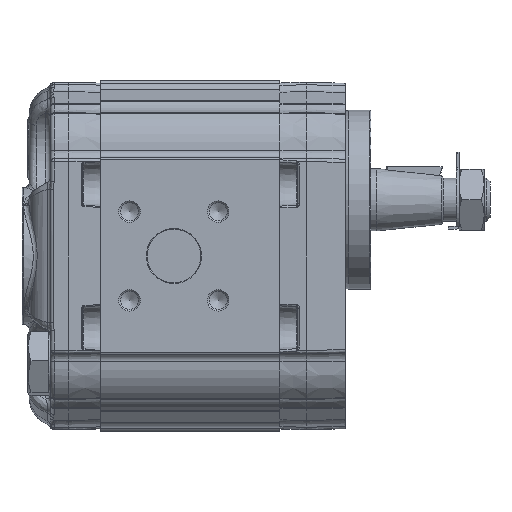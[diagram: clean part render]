
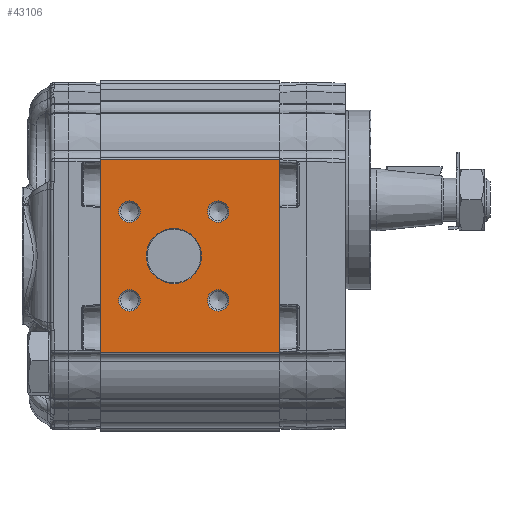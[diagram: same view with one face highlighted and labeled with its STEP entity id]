
A CAD part, left-side view. The second image highlights one B-rep face of the part: STEP entity #43106.
In plain terms, the highlighted planar face has unit normal (-1, 0, 0).
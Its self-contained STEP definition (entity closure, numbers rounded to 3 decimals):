
#2879=PLANE('',#46051);
#3980=LINE('',#70620,#5426);
#3981=LINE('',#70623,#5427);
#3982=LINE('',#70625,#5428);
#3983=LINE('',#70627,#5429);
#5426=VECTOR('',#52337,1000.);
#5427=VECTOR('',#52338,1000.);
#5428=VECTOR('',#52339,1000.);
#5429=VECTOR('',#52340,1000.);
#11421=ORIENTED_EDGE('',*,*,#17616,.T.);
#11422=ORIENTED_EDGE('',*,*,#17617,.T.);
#11423=ORIENTED_EDGE('',*,*,#17618,.T.);
#11424=ORIENTED_EDGE('',*,*,#17619,.T.);
#11425=ORIENTED_EDGE('',*,*,#17620,.T.);
#11426=ORIENTED_EDGE('',*,*,#17621,.F.);
#11427=ORIENTED_EDGE('',*,*,#17622,.F.);
#11428=ORIENTED_EDGE('',*,*,#17623,.T.);
#11429=ORIENTED_EDGE('',*,*,#17624,.T.);
#17616=EDGE_CURVE('',#21042,#21042,#23157,.F.);
#17617=EDGE_CURVE('',#21043,#21043,#23158,.F.);
#17618=EDGE_CURVE('',#21044,#21044,#23159,.F.);
#17619=EDGE_CURVE('',#21045,#21045,#23160,.F.);
#17620=EDGE_CURVE('',#21046,#21046,#23161,.F.);
#17621=EDGE_CURVE('',#21047,#21048,#3980,.T.);
#17622=EDGE_CURVE('',#21049,#21047,#3981,.T.);
#17623=EDGE_CURVE('',#21049,#21050,#3982,.T.);
#17624=EDGE_CURVE('',#21050,#21048,#3983,.T.);
#21042=VERTEX_POINT('',#70611);
#21043=VERTEX_POINT('',#70613);
#21044=VERTEX_POINT('',#70615);
#21045=VERTEX_POINT('',#70617);
#21046=VERTEX_POINT('',#70619);
#21047=VERTEX_POINT('',#70621);
#21048=VERTEX_POINT('',#70622);
#21049=VERTEX_POINT('',#70624);
#21050=VERTEX_POINT('',#70626);
#23157=CIRCLE('',#46052,7.7);
#23158=CIRCLE('',#46053,3.);
#23159=CIRCLE('',#46054,3.);
#23160=CIRCLE('',#46055,3.);
#23161=CIRCLE('',#46056,3.);
#24899=EDGE_LOOP('',(#11421));
#24900=EDGE_LOOP('',(#11422));
#24901=EDGE_LOOP('',(#11423));
#24902=EDGE_LOOP('',(#11424));
#24903=EDGE_LOOP('',(#11425));
#24904=EDGE_LOOP('',(#11426,#11427,#11428,#11429));
#27072=FACE_BOUND('',#24899,.T.);
#27073=FACE_BOUND('',#24900,.T.);
#27074=FACE_BOUND('',#24901,.T.);
#27075=FACE_BOUND('',#24902,.T.);
#27076=FACE_BOUND('',#24903,.T.);
#27077=FACE_BOUND('',#24904,.T.);
#43106=ADVANCED_FACE('',(#27072,#27073,#27074,#27075,#27076,#27077),#2879,
 .T.);
#46051=AXIS2_PLACEMENT_3D('',#70609,#52325,#52326);
#46052=AXIS2_PLACEMENT_3D('',#70610,#52327,#52328);
#46053=AXIS2_PLACEMENT_3D('',#70612,#52329,#52330);
#46054=AXIS2_PLACEMENT_3D('',#70614,#52331,#52332);
#46055=AXIS2_PLACEMENT_3D('',#70616,#52333,#52334);
#46056=AXIS2_PLACEMENT_3D('',#70618,#52335,#52336);
#52325=DIRECTION('',(-1.,0.,0.));
#52326=DIRECTION('',(0.,0.,1.));
#52327=DIRECTION('',(-1.,0.,0.));
#52328=DIRECTION('',(0.,0.,1.));
#52329=DIRECTION('',(-1.,0.,0.));
#52330=DIRECTION('',(0.,0.,1.));
#52331=DIRECTION('',(-1.,0.,0.));
#52332=DIRECTION('',(0.,0.,1.));
#52333=DIRECTION('',(-1.,0.,0.));
#52334=DIRECTION('',(0.,0.,1.));
#52335=DIRECTION('',(-1.,0.,0.));
#52336=DIRECTION('',(0.,0.,1.));
#52337=DIRECTION('',(0.,0.,-1.));
#52338=DIRECTION('',(0.,-1.,0.));
#52339=DIRECTION('',(0.,0.,-1.));
#52340=DIRECTION('',(0.,-1.,0.));
#70609=CARTESIAN_POINT('',(-43.,50.,27.048));
#70610=CARTESIAN_POINT('',(-43.,29.6,0.));
#70611=CARTESIAN_POINT('',(-43.,29.6,7.7));
#70612=CARTESIAN_POINT('',(-43.,41.974,-12.374));
#70613=CARTESIAN_POINT('',(-43.,41.974,-9.374));
#70614=CARTESIAN_POINT('',(-43.,41.974,12.374));
#70615=CARTESIAN_POINT('',(-43.,41.974,15.374));
#70616=CARTESIAN_POINT('',(-43.,17.226,12.374));
#70617=CARTESIAN_POINT('',(-43.,17.226,15.374));
#70618=CARTESIAN_POINT('',(-43.,17.226,-12.374));
#70619=CARTESIAN_POINT('',(-43.,17.226,-9.374));
#70620=CARTESIAN_POINT('',(-43.,0.,27.048));
#70621=CARTESIAN_POINT('',(-43.,0.,27.048));
#70622=CARTESIAN_POINT('',(-43.,0.,-27.048));
#70623=CARTESIAN_POINT('',(-43.,50.,27.048));
#70624=CARTESIAN_POINT('',(-43.,50.,27.048));
#70625=CARTESIAN_POINT('',(-43.,50.,27.048));
#70626=CARTESIAN_POINT('',(-43.,50.,-27.048));
#70627=CARTESIAN_POINT('',(-43.,50.,-27.048));
